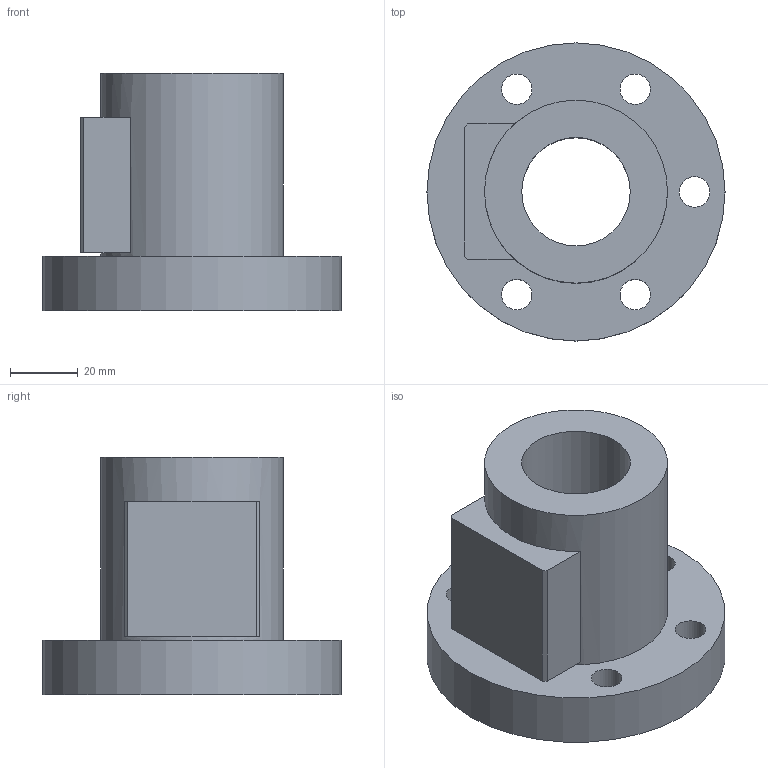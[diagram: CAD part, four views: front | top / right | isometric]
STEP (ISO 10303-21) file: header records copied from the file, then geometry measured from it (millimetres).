
FILE_DESCRIPTION(/* description */ (''),/* implementation_level */ '2;1');
FILE_NAME(/* name */ '32-8C1',/* time_stamp */ '2006-07-31T09:58:07+08:00',/* author */ (''),/* organization */ (''),/* preprocessor_version */ 'ST-DEVELOPER v9',/* originating_system */ 'UGS - NX 4.0',/* authorisation */ '');
FILE_SCHEMA (('CONFIG_CONTROL_DESIGN'));
Length unit declared in the file: millimetre
Products named in the file (1): 32-8C1
Bounding box: 88 x 88 x 70 mm (x, y, z)
Volume: 169685.4 mm3; surface area: 35107 mm2
Topology: 1 solids, 1 shells, 28 faces, 61 edges, 42 vertices
Faces by surface type: plane 15, cylinder 13
Full cylindrical faces by diameter (mm): 9 x5, 14 x5, 32 x1, 54 x1, 88 x1
Entity records: 794 total; most frequent: DIRECTION 130, CARTESIAN_POINT 111, ORIENTED_EDGE 88, EDGE_LOOP 60, AXIS2_PLACEMENT_3D 57, FACE_BOUND 45, EDGE_CURVE 44, VERTEX_POINT 38
